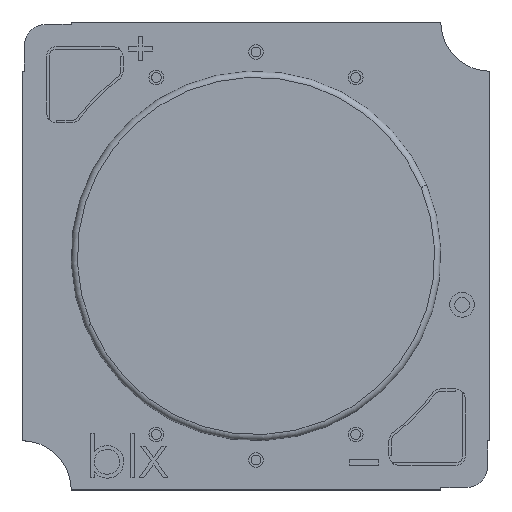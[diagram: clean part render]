
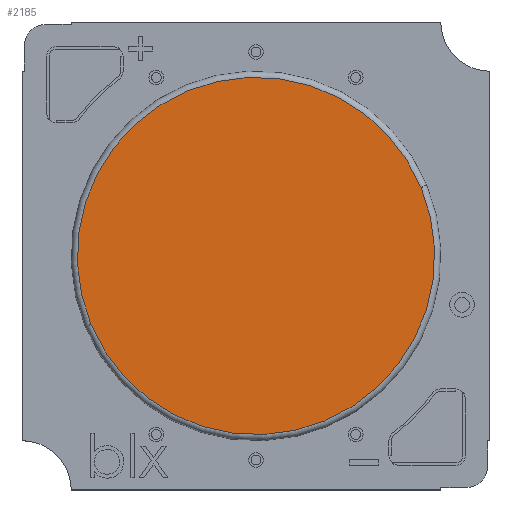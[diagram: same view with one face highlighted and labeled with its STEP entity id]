
A CAD part, top view. The second image highlights one B-rep face of the part: STEP entity #2185.
In plain terms, the highlighted planar face has unit normal (0, 0, 1).
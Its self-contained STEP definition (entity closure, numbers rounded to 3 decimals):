
#821 = CARTESIAN_POINT ( 'NONE',  ( 3.897, 2.977, 20.1 ) ) ;
#1095 = AXIS2_PLACEMENT_3D ( 'NONE', #3170, #3755, #7161 ) ;
#1217 = EDGE_CURVE ( 'NONE', #2710, #6949, #5078, .T. ) ;
#1445 = CARTESIAN_POINT ( 'NONE',  ( -2.804, 0.198, 20.1 ) ) ;
#1598 = CARTESIAN_POINT ( 'NONE',  ( -2.804, 0.198, 20.1 ) ) ;
#2185 = ADVANCED_FACE ( 'NONE', ( #3398 ), #4996, .T. ) ;
#2192 = ORIENTED_EDGE ( 'NONE', *, *, #1217, .T. ) ;
#2194 = ORIENTED_EDGE ( 'NONE', *, *, #2418, .T. ) ;
#2418 = EDGE_CURVE ( 'NONE', #6949, #2710, #4352, .T. ) ;
#2710 = VERTEX_POINT ( 'NONE', #821 ) ;
#3170 = CARTESIAN_POINT ( 'NONE',  ( -2.804, 0.198, 20.1 ) ) ;
#3398 = FACE_OUTER_BOUND ( 'NONE', #4204, .T. ) ;
#3755 = DIRECTION ( 'NONE',  ( 0., 0., 1. ) ) ;
#4204 = EDGE_LOOP ( 'NONE', ( #2192, #2194 ) ) ;
#4352 = CIRCLE ( 'NONE', #5386, 7.255 ) ;
#4996 = PLANE ( 'NONE',  #6320 ) ;
#5078 = CIRCLE ( 'NONE', #1095, 7.255 ) ;
#5386 = AXIS2_PLACEMENT_3D ( 'NONE', #1598, #6765, #6675 ) ;
#5467 = DIRECTION ( 'NONE',  ( 1., 0., 0. ) ) ;
#5545 = CARTESIAN_POINT ( 'NONE',  ( -9.506, -2.581, 20.1 ) ) ;
#5581 = DIRECTION ( 'NONE',  ( 0., 0., 1. ) ) ;
#6320 = AXIS2_PLACEMENT_3D ( 'NONE', #1445, #5581, #5467 ) ;
#6675 = DIRECTION ( 'NONE',  ( 0.924, 0.383, 0. ) ) ;
#6765 = DIRECTION ( 'NONE',  ( 0., 0., 1. ) ) ;
#6949 = VERTEX_POINT ( 'NONE', #5545 ) ;
#7161 = DIRECTION ( 'NONE',  ( 0.924, 0.383, 0. ) ) ;
